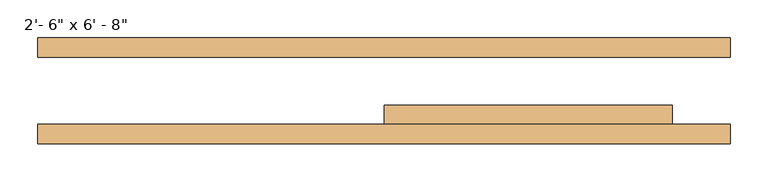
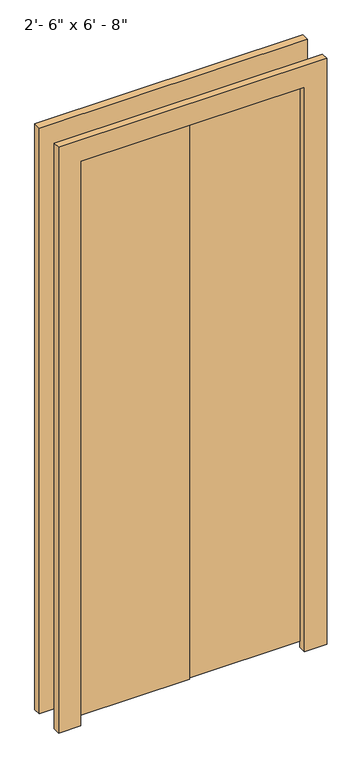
"""IFC4 building model written with IfcOpenShell, lengths in millimetres: door geometry."""

from ifc_helpers import new_model, si_unit, frame, origin, place, context, project, spatial, polyline, outline, extrude, source, transform, mapped, element, save


def door_64f38517(model_context):
    return source(origin(), model_context, "Body", "SweptSolid", [
        extrude(outline(polyline([(2032.0, -228.6), (2032.0, 533.4), (0.0, 533.4), (0.0, 609.6), (2108.2, 609.6), (2108.2, -304.8), (0.0, -304.8), (0.0, -228.6), (2032.0, -228.6)])), frame((0.0, 60.4124703, 0.0), z_axis=(0.0, 1.0, 0.0), x_axis=(0.0, 0.0, 1.0)), (0.0, 0.0, 1.0), 25.4),
        extrude(outline(polyline([(2032.0, -228.6), (2032.0, 533.4), (0.0, 533.4), (0.0, 609.6), (2108.2, 609.6), (2108.2, -304.8), (0.0, -304.8), (0.0, -228.6), (2032.0, -228.6)])), frame((0.0, -53.8875297, 0.0), z_axis=(0.0, 1.0, 0.0), x_axis=(0.0, 0.0, 1.0)), (0.0, 0.0, 1.0), 25.4),
        extrude(outline(polyline([(-228.6, -34.8375297), (-228.6, -28.4875297), (152.4, -28.4875297), (152.4, -34.8375297), (-228.6, -34.8375297)])), frame((0.0, 0.0, 22.225), z_axis=(0.0, 0.0, 1.0), x_axis=(1.0, 0.0, 0.0)), (0.0, 0.0, 1.0), 1993.9),
        extrude(outline(polyline([(152.4, -28.4875297), (152.4, -3.0875297), (533.4, -3.0875297), (533.4, -28.4875297), (152.4, -28.4875297)])), frame((0.0, 0.0, 22.225), z_axis=(0.0, 0.0, 1.0), x_axis=(1.0, 0.0, 0.0)), (0.0, 0.0, 1.0), 1993.9),
    ])


if __name__ == "__main__":
    model = new_model("IFC4")
    model_context = context("Model", 3, world=origin())
    ifc_project = project(units=[si_unit("LENGTHUNIT", "METRE", prefix="MILLI")], contexts=[model_context])
    site = spatial("IfcSite", under=ifc_project)
    building = spatial("IfcBuilding", under=site)
    placement = place(None, origin())
    door_shape = door_64f38517(model_context)
    element("IfcDoor", 1, ObjectType="Door-Bifold_2-Panel_Flush_SlimFold_Dunbarton : 2'- 6\" x 6' - 8\"", at=placement, inside=building, context=model_context, shape_type="MappedRepresentation", body=[
        mapped(door_shape, transform((0.0, 0.0, 0.0), x_axis=(1.0, 0.0, 0.0), y_axis=(0.0, 1.0, 0.0), z_axis=(0.0, 0.0, 1.0))),
    ])
    save(model, "model.ifc")
